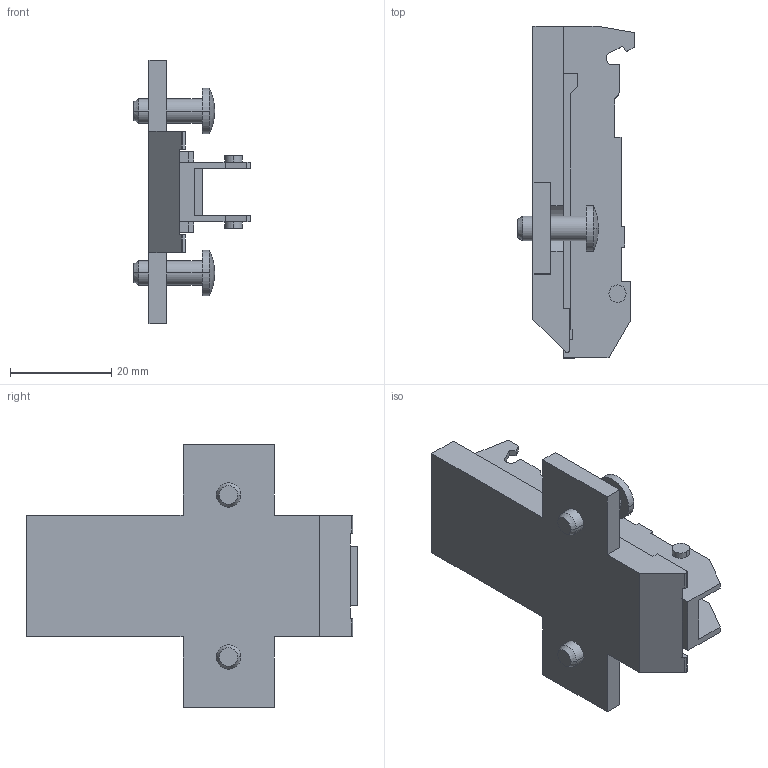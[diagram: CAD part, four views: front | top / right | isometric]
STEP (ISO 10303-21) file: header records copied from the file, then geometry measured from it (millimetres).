
FILE_DESCRIPTION (( 'STEP AP214' ), '1' );
FILE_NAME ('1D Kreuzmontageplatte_37_32_H9.5_Euro.STEP', '2011-08-18T14:10:00', ( '' ), ( '' ), 'SwSTEP 2.0', 'SolidWorks 2011', '' );
FILE_SCHEMA (( 'AUTOMOTIVE_DESIGN' ));
Length unit declared in the file: millimetre
Products named in the file (1): 1D Kreuzmontageplatte_37_32_H9.5_Euro
Bounding box: 23 x 65.55 x 52 mm (x, y, z)
Volume: 15396.6 mm3; surface area: 8864.3 mm2
Topology: 1 solids, 1 shells, 124 faces, 338 edges, 224 vertices
Faces by surface type: plane 92, cylinder 24, cone 4, sphere 4
Entity records: 3924 total; most frequent: CARTESIAN_POINT 687, ORIENTED_EDGE 676, DIRECTION 648, EDGE_CURVE 338, LINE 278, VECTOR 278, VERTEX_POINT 224, AXIS2_PLACEMENT_3D 185
